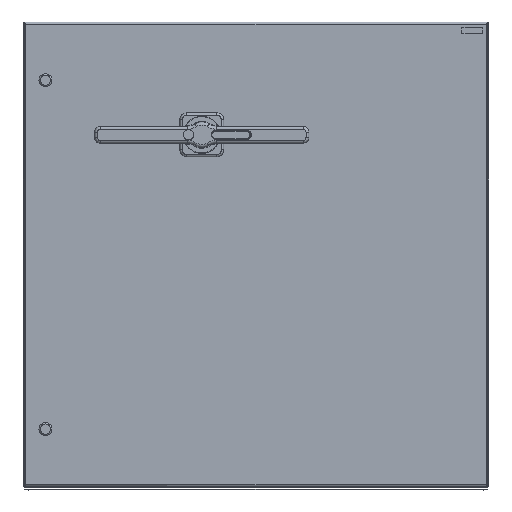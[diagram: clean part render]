
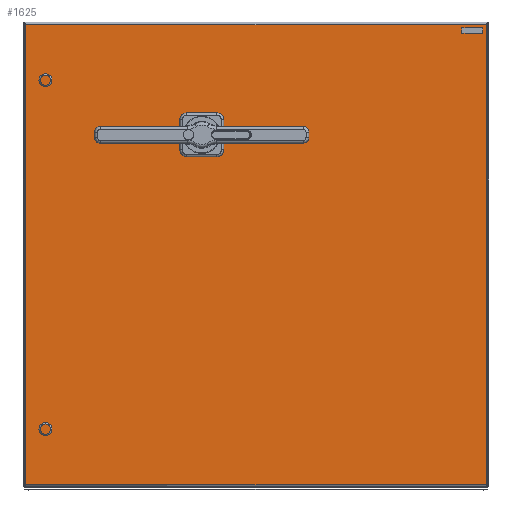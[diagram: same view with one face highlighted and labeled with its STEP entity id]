
A CAD part, top view. The second image highlights one B-rep face of the part: STEP entity #1625.
In plain terms, the highlighted planar face has unit normal (0, 0, 1).
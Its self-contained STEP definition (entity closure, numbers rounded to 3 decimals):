
#566=PLANE('',#3512);
#658=LINE('',#4422,#760);
#659=LINE('',#4462,#761);
#660=LINE('',#4489,#762);
#665=LINE('',#4512,#767);
#760=VECTOR('',#3781,1.);
#761=VECTOR('',#3784,1.);
#762=VECTOR('',#3787,1.);
#767=VECTOR('',#3796,1.);
#1625=ADVANCED_FACE('',(#1759),#566,.F.);
#1759=FACE_OUTER_BOUND('',#1889,.T.);
#1889=EDGE_LOOP('',(#2129,#2130,#2131,#2132));
#2129=ORIENTED_EDGE('',*,*,#3088,.T.);
#2130=ORIENTED_EDGE('',*,*,#3085,.T.);
#2131=ORIENTED_EDGE('',*,*,#3081,.T.);
#2132=ORIENTED_EDGE('',*,*,#3094,.T.);
#2731=VERTEX_POINT('',#4421);
#2732=VERTEX_POINT('',#4423);
#2733=VERTEX_POINT('',#4449);
#2734=VERTEX_POINT('',#4476);
#3081=EDGE_CURVE('',#2732,#2731,#658,.T.);
#3085=EDGE_CURVE('',#2733,#2732,#659,.T.);
#3088=EDGE_CURVE('',#2734,#2733,#660,.T.);
#3094=EDGE_CURVE('',#2731,#2734,#665,.T.);
#3512=AXIS2_PLACEMENT_3D('',#4526,#3799,#3800);
#3781=DIRECTION('',(-1.,0.,0.));
#3784=DIRECTION('',(0.,1.,0.));
#3787=DIRECTION('',(1.,0.,0.));
#3796=DIRECTION('',(0.,-1.,0.));
#3799=DIRECTION('',(0.,0.,-1.));
#3800=DIRECTION('',(0.,-1.,0.));
#4421=CARTESIAN_POINT('',(-494.5,393.75,283.5));
#4422=CARTESIAN_POINT('',(494.5,393.75,283.5));
#4423=CARTESIAN_POINT('',(494.5,393.75,283.5));
#4449=CARTESIAN_POINT('',(494.5,-595.25,283.5));
#4462=CARTESIAN_POINT('',(494.5,-595.25,283.5));
#4476=CARTESIAN_POINT('',(-494.5,-595.25,283.5));
#4489=CARTESIAN_POINT('',(-494.5,-595.25,283.5));
#4512=CARTESIAN_POINT('',(-494.5,393.75,283.5));
#4526=CARTESIAN_POINT('',(-543.95,-644.7,283.5));
